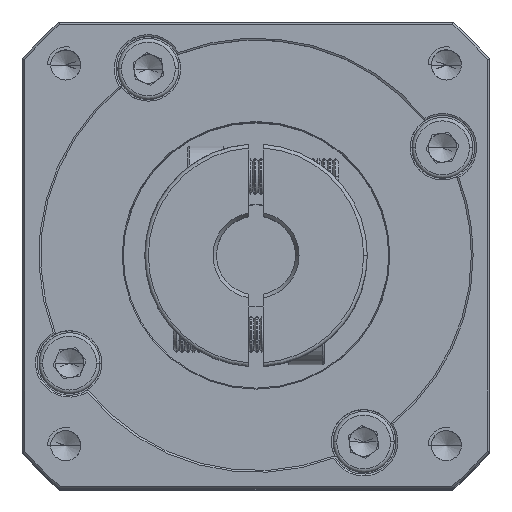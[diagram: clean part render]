
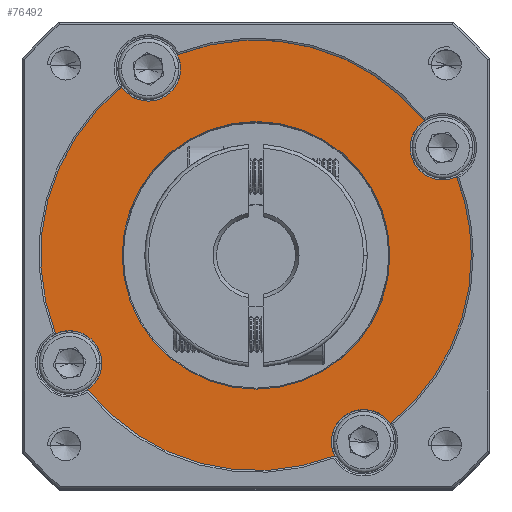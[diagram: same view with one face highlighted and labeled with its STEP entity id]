
A CAD part, top view. The second image highlights one B-rep face of the part: STEP entity #76492.
In plain terms, the highlighted planar face has unit normal (0, 0, 1).
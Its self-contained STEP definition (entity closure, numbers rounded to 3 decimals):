
#1666 = DIRECTION ( 'NONE',  ( 1., 0., 0. ) ) ;
#2413 = ORIENTED_EDGE ( 'NONE', *, *, #47222, .F. ) ;
#3211 = CARTESIAN_POINT ( 'NONE',  ( -31.889, 10.248, -0.205 ) ) ;
#3359 = CIRCLE ( 'NONE', #33049, 30. ) ;
#4883 = CIRCLE ( 'NONE', #72928, 4.5 ) ;
#5921 = CARTESIAN_POINT ( 'NONE',  ( -68.815, 23.18, -0.205 ) ) ;
#6292 = CARTESIAN_POINT ( 'NONE',  ( -70.766, 27.235, -0.205 ) ) ;
#7832 = CIRCLE ( 'NONE', #95003, 30. ) ;
#9161 = CARTESIAN_POINT ( 'NONE',  ( -14.902, 49.125, -0.205 ) ) ;
#12302 = DIRECTION ( 'NONE',  ( 0., 0., 1. ) ) ;
#13540 = ORIENTED_EDGE ( 'NONE', *, *, #115963, .T. ) ;
#15539 = DIRECTION ( 'NONE',  ( 1., 0., 0. ) ) ;
#15709 = CIRCLE ( 'NONE', #102494, 4.5 ) ;
#15892 = DIRECTION ( 'NONE',  ( 0., 0., 1. ) ) ;
#16162 = ORIENTED_EDGE ( 'NONE', *, *, #103665, .F. ) ;
#16260 = AXIS2_PLACEMENT_3D ( 'NONE', #5921, #106957, #108549 ) ;
#17278 = DIRECTION ( 'NONE',  ( 0., 0., 1. ) ) ;
#17589 = ORIENTED_EDGE ( 'NONE', *, *, #69390, .F. ) ;
#19167 = CARTESIAN_POINT ( 'NONE',  ( -61.551, 61.625, -0.205 ) ) ;
#20050 = AXIS2_PLACEMENT_3D ( 'NONE', #89965, #108689, #43213 ) ;
#21465 = CARTESIAN_POINT ( 'NONE',  ( -21.353, 53.18, -0.205 ) ) ;
#21480 = DIRECTION ( 'NONE',  ( 0., 0., 1. ) ) ;
#21506 = CIRCLE ( 'NONE', #85301, 18.644 ) ;
#23762 = EDGE_CURVE ( 'NONE', #49765, #92505, #55452, .T. ) ;
#24102 = CARTESIAN_POINT ( 'NONE',  ( -66.279, 19.463, -0.205 ) ) ;
#28248 = CIRCLE ( 'NONE', #97652, 4.5 ) ;
#31160 = CARTESIAN_POINT ( 'NONE',  ( -42.834, 38.18, -0.205 ) ) ;
#31541 = DIRECTION ( 'NONE',  ( 0., 0., 1. ) ) ;
#32102 = CARTESIAN_POINT ( 'NONE',  ( -53.779, 66.112, -0.205 ) ) ;
#33049 = AXIS2_PLACEMENT_3D ( 'NONE', #115123, #41495, #79300 ) ;
#35014 = DIRECTION ( 'NONE',  ( 1., 0., 0. ) ) ;
#35025 = ORIENTED_EDGE ( 'NONE', *, *, #98747, .F. ) ;
#36078 = ORIENTED_EDGE ( 'NONE', *, *, #68892, .T. ) ;
#36487 = VERTEX_POINT ( 'NONE', #9161 ) ;
#38101 = ORIENTED_EDGE ( 'NONE', *, *, #46002, .F. ) ;
#39351 = DIRECTION ( 'NONE',  ( 0., 0., 1. ) ) ;
#40370 = CARTESIAN_POINT ( 'NONE',  ( -42.834, 38.18, -0.205 ) ) ;
#41218 = VERTEX_POINT ( 'NONE', #117159 ) ;
#41495 = DIRECTION ( 'NONE',  ( 0., 0., 1. ) ) ;
#43213 = DIRECTION ( 'NONE',  ( 1., 0., 0. ) ) ;
#44112 = DIRECTION ( 'NONE',  ( 1., 0., 0. ) ) ;
#45497 = CARTESIAN_POINT ( 'NONE',  ( -16.853, 53.18, -0.205 ) ) ;
#46002 = EDGE_CURVE ( 'NONE', #98814, #89079, #105730, .T. ) ;
#47222 = EDGE_CURVE ( 'NONE', #89079, #36487, #28248, .T. ) ;
#48666 = EDGE_CURVE ( 'NONE', #49765, #64864, #4883, .T. ) ;
#49765 = VERTEX_POINT ( 'NONE', #19167 ) ;
#49981 = ORIENTED_EDGE ( 'NONE', *, *, #71149, .T. ) ;
#51368 = EDGE_LOOP ( 'NONE', ( #99417, #80438 ) ) ;
#52395 = AXIS2_PLACEMENT_3D ( 'NONE', #61887, #118431, #35014 ) ;
#52444 = VERTEX_POINT ( 'NONE', #3211 ) ;
#53100 = VERTEX_POINT ( 'NONE', #57398 ) ;
#54404 = EDGE_CURVE ( 'NONE', #64864, #79689, #15709, .T. ) ;
#55452 = CIRCLE ( 'NONE', #79228, 30. ) ;
#57398 = CARTESIAN_POINT ( 'NONE',  ( -32.334, 12.2, -0.205 ) ) ;
#57585 = DIRECTION ( 'NONE',  ( 0., 0., 1. ) ) ;
#57801 = AXIS2_PLACEMENT_3D ( 'NONE', #71800, #100278, #15539 ) ;
#58061 = DIRECTION ( 'NONE',  ( 1., 0., 0. ) ) ;
#58833 = VERTEX_POINT ( 'NONE', #100755 ) ;
#59233 = CIRCLE ( 'NONE', #91407, 30. ) ;
#59363 = AXIS2_PLACEMENT_3D ( 'NONE', #113804, #39351, #104448 ) ;
#59664 = PLANE ( 'NONE',  #90254 ) ;
#60528 = CARTESIAN_POINT ( 'NONE',  ( -12.834, 38.18, -0.205 ) ) ;
#61887 = CARTESIAN_POINT ( 'NONE',  ( -68.815, 23.18, -0.205 ) ) ;
#63320 = CARTESIAN_POINT ( 'NONE',  ( -57.834, 64.161, -0.205 ) ) ;
#64147 = DIRECTION ( 'NONE',  ( 1., 0., 0. ) ) ;
#64457 = CIRCLE ( 'NONE', #81068, 4.5 ) ;
#64497 = EDGE_CURVE ( 'NONE', #69338, #52444, #70182, .T. ) ;
#64864 = VERTEX_POINT ( 'NONE', #96164 ) ;
#67484 = DIRECTION ( 'NONE',  ( 0., 0., 1. ) ) ;
#68811 = DIRECTION ( 'NONE',  ( 0., 0., -1. ) ) ;
#68892 = EDGE_CURVE ( 'NONE', #79750, #93975, #7832, .T. ) ;
#69338 = VERTEX_POINT ( 'NONE', #24102 ) ;
#69390 = EDGE_CURVE ( 'NONE', #53100, #52444, #64457, .T. ) ;
#70182 = CIRCLE ( 'NONE', #59363, 30. ) ;
#70447 = CIRCLE ( 'NONE', #16260, 4.5 ) ;
#71149 = EDGE_CURVE ( 'NONE', #98814, #79689, #59233, .T. ) ;
#71635 = EDGE_CURVE ( 'NONE', #79750, #53100, #92471, .T. ) ;
#71800 = CARTESIAN_POINT ( 'NONE',  ( -16.853, 53.18, -0.205 ) ) ;
#72928 = AXIS2_PLACEMENT_3D ( 'NONE', #63320, #17278, #81225 ) ;
#73092 = DIRECTION ( 'NONE',  ( 0., 0., 1. ) ) ;
#73640 = CIRCLE ( 'NONE', #52395, 4.5 ) ;
#75418 = CARTESIAN_POINT ( 'NONE',  ( -42.834, 38.18, -0.205 ) ) ;
#75911 = AXIS2_PLACEMENT_3D ( 'NONE', #95194, #21480, #86212 ) ;
#76492 = ADVANCED_FACE ( 'NONE', ( #95375, #83701 ), #59664, .T. ) ;
#79228 = AXIS2_PLACEMENT_3D ( 'NONE', #113767, #12302, #58061 ) ;
#79300 = DIRECTION ( 'NONE',  ( 1., 0., 0. ) ) ;
#79689 = VERTEX_POINT ( 'NONE', #32102 ) ;
#79750 = VERTEX_POINT ( 'NONE', #97237 ) ;
#80438 = ORIENTED_EDGE ( 'NONE', *, *, #117201, .T. ) ;
#81068 = AXIS2_PLACEMENT_3D ( 'NONE', #99437, #15892, #44112 ) ;
#81225 = DIRECTION ( 'NONE',  ( 1., 0., 0. ) ) ;
#81447 = CIRCLE ( 'NONE', #20050, 18.644 ) ;
#81607 = CARTESIAN_POINT ( 'NONE',  ( -42.834, 38.18, -0.205 ) ) ;
#83701 = FACE_OUTER_BOUND ( 'NONE', #101141, .T. ) ;
#85301 = AXIS2_PLACEMENT_3D ( 'NONE', #40370, #68811, #87502 ) ;
#86212 = DIRECTION ( 'NONE',  ( 1., 0., 0. ) ) ;
#86323 = EDGE_CURVE ( 'NONE', #41218, #117918, #21506, .T. ) ;
#87502 = DIRECTION ( 'NONE',  ( 1., 0., 0. ) ) ;
#88364 = ORIENTED_EDGE ( 'NONE', *, *, #64497, .T. ) ;
#89079 = VERTEX_POINT ( 'NONE', #21465 ) ;
#89959 = CARTESIAN_POINT ( 'NONE',  ( -19.389, 56.898, -0.205 ) ) ;
#89965 = CARTESIAN_POINT ( 'NONE',  ( -42.834, 38.18, -0.205 ) ) ;
#90135 = CARTESIAN_POINT ( 'NONE',  ( -61.478, 38.18, -0.205 ) ) ;
#90254 = AXIS2_PLACEMENT_3D ( 'NONE', #31160, #31541, #96664 ) ;
#91407 = AXIS2_PLACEMENT_3D ( 'NONE', #75418, #57585, #1666 ) ;
#91889 = ORIENTED_EDGE ( 'NONE', *, *, #23762, .T. ) ;
#92471 = CIRCLE ( 'NONE', #75911, 4.5 ) ;
#92505 = VERTEX_POINT ( 'NONE', #6292 ) ;
#93975 = VERTEX_POINT ( 'NONE', #60528 ) ;
#95003 = AXIS2_PLACEMENT_3D ( 'NONE', #81607, #73092, #119028 ) ;
#95169 = DIRECTION ( 'NONE',  ( 1., 0., 0. ) ) ;
#95194 = CARTESIAN_POINT ( 'NONE',  ( -27.834, 12.2, -0.205 ) ) ;
#95375 = FACE_BOUND ( 'NONE', #51368, .T. ) ;
#96164 = CARTESIAN_POINT ( 'NONE',  ( -53.334, 64.161, -0.205 ) ) ;
#96664 = DIRECTION ( 'NONE',  ( 1., 0., 0. ) ) ;
#97237 = CARTESIAN_POINT ( 'NONE',  ( -24.117, 14.735, -0.205 ) ) ;
#97652 = AXIS2_PLACEMENT_3D ( 'NONE', #45497, #110521, #64147 ) ;
#98747 = EDGE_CURVE ( 'NONE', #58833, #92505, #73640, .T. ) ;
#98814 = VERTEX_POINT ( 'NONE', #89959 ) ;
#99417 = ORIENTED_EDGE ( 'NONE', *, *, #86323, .T. ) ;
#99437 = CARTESIAN_POINT ( 'NONE',  ( -27.834, 12.2, -0.205 ) ) ;
#100278 = DIRECTION ( 'NONE',  ( 0., 0., 1. ) ) ;
#100755 = CARTESIAN_POINT ( 'NONE',  ( -64.315, 23.18, -0.205 ) ) ;
#100788 = ORIENTED_EDGE ( 'NONE', *, *, #48666, .F. ) ;
#101141 = EDGE_LOOP ( 'NONE', ( #16162, #88364, #17589, #114917, #36078, #13540, #2413, #38101, #49981, #106537, #100788, #91889, #35025 ) ) ;
#102494 = AXIS2_PLACEMENT_3D ( 'NONE', #105715, #67484, #95169 ) ;
#103665 = EDGE_CURVE ( 'NONE', #69338, #58833, #70447, .T. ) ;
#104448 = DIRECTION ( 'NONE',  ( 1., 0., 0. ) ) ;
#105715 = CARTESIAN_POINT ( 'NONE',  ( -57.834, 64.161, -0.205 ) ) ;
#105730 = CIRCLE ( 'NONE', #57801, 4.5 ) ;
#106537 = ORIENTED_EDGE ( 'NONE', *, *, #54404, .F. ) ;
#106957 = DIRECTION ( 'NONE',  ( 0., 0., 1. ) ) ;
#108549 = DIRECTION ( 'NONE',  ( 1., 0., 0. ) ) ;
#108689 = DIRECTION ( 'NONE',  ( 0., 0., -1. ) ) ;
#110521 = DIRECTION ( 'NONE',  ( 0., 0., 1. ) ) ;
#113767 = CARTESIAN_POINT ( 'NONE',  ( -42.834, 38.18, -0.205 ) ) ;
#113804 = CARTESIAN_POINT ( 'NONE',  ( -42.834, 38.18, -0.205 ) ) ;
#114917 = ORIENTED_EDGE ( 'NONE', *, *, #71635, .F. ) ;
#115123 = CARTESIAN_POINT ( 'NONE',  ( -42.834, 38.18, -0.205 ) ) ;
#115963 = EDGE_CURVE ( 'NONE', #93975, #36487, #3359, .T. ) ;
#117159 = CARTESIAN_POINT ( 'NONE',  ( -24.19, 38.18, -0.205 ) ) ;
#117201 = EDGE_CURVE ( 'NONE', #117918, #41218, #81447, .T. ) ;
#117918 = VERTEX_POINT ( 'NONE', #90135 ) ;
#118431 = DIRECTION ( 'NONE',  ( 0., 0., 1. ) ) ;
#119028 = DIRECTION ( 'NONE',  ( 1., 0., 0. ) ) ;
